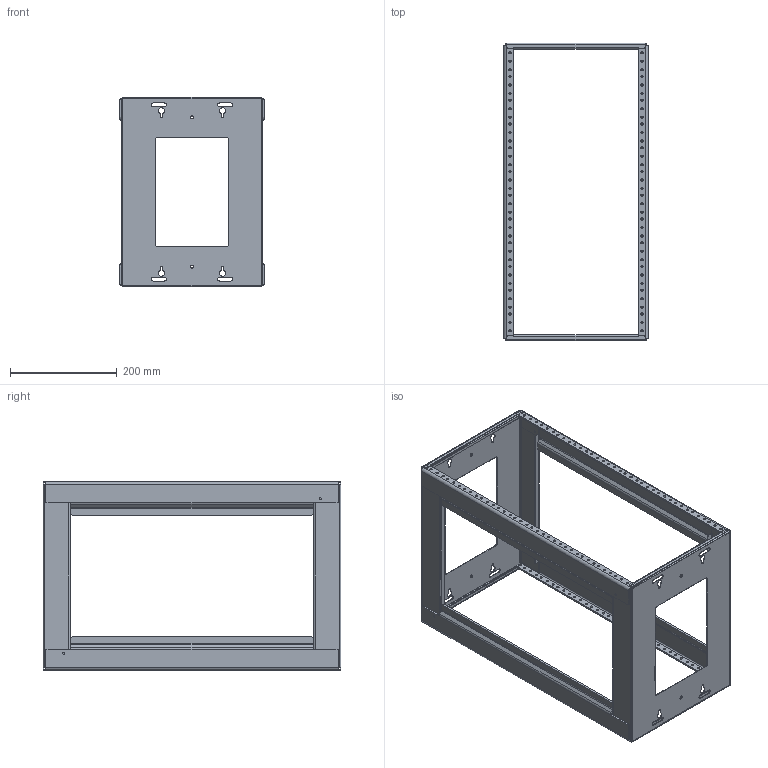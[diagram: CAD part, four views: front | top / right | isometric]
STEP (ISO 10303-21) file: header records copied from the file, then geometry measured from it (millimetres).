
FILE_DESCRIPTION((''),'2;1');
FILE_NAME('PCFR30_ASM','2013-04-18T',('bmann'),('Middle Atlantic Products'),'PRO/ENGINEER BY PARAMETRIC TECHNOLOGY CORPORATION, 2012420','PRO/ENGINEER BY PARAMETRIC TECHNOLOGY CORPORATION, 2012420','');
FILE_SCHEMA(('CONFIG_CONTROL_DESIGN'));
Length unit declared in the file: inch
Products named in the file (4): BCFRTB6; STCFRTB6_ASM; TPCFR12RR; PCFR30_ASM
Assembly tree (7 placements, depth 3):
  PCFR30_ASM
    STCFRTB6_ASM  x2
      BCFRTB6
    TPCFR12RR  x4
Bounding box: 270.51 x 557.17 x 355.6 mm (x, y, z)
Volume: 845007.3 mm3; surface area: 793552.9 mm2
Topology: 6 solids, 6 shells, 772 faces, 2056 edges, 1296 vertices
Faces by surface type: cylinder 456, plane 316
Entity records: 8672 total; most frequent: DIRECTION 1570, CARTESIAN_POINT 1436, ORIENTED_EDGE 1420, EDGE_CURVE 710, AXIS2_PLACEMENT_3D 578, VERTEX_POINT 444, VECTOR 414, LINE 414
